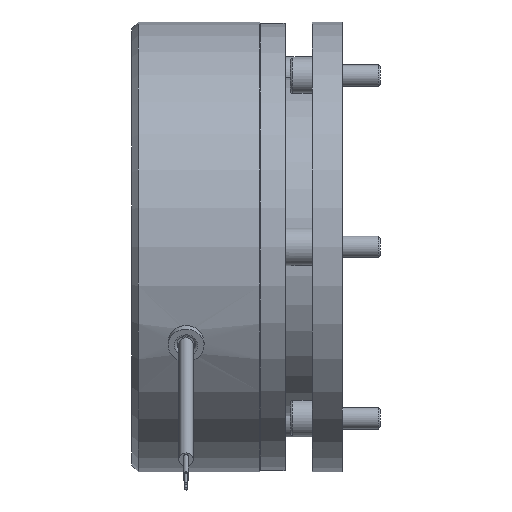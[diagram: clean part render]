
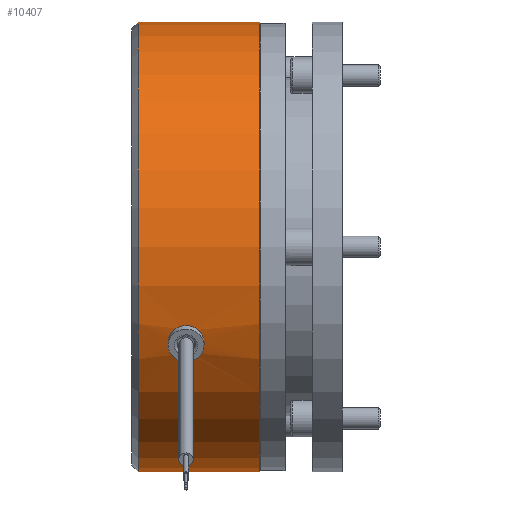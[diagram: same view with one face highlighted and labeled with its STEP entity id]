
A CAD part, front view. The second image highlights one B-rep face of the part: STEP entity #10407.
In plain terms, the highlighted cylindrical face has radius 82.5 mm (diameter 165 mm), a full revolution.
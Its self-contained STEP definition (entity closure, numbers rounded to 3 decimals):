
#458=B_SPLINE_CURVE_WITH_KNOTS('',3,(#19394,#19395,#19396,#19397,#19398,
#19399,#19400,#19401,#19402,#19403,#19404,#19405,#19406,#19407,#19408,#19409,
#19410,#19411),.UNSPECIFIED.,.F.,.F.,(4,2,2,2,2,2,2,2,4),(0.767,
0.959,1.151,1.343,1.535,1.726,
1.918,2.11,2.302),.UNSPECIFIED.);
#459=B_SPLINE_CURVE_WITH_KNOTS('',3,(#19414,#19415,#19416,#19417,#19418,
#19419,#19420,#19421,#19422,#19423,#19424,#19425,#19426,#19427,#19428,#19429,
#19430,#19431,#19432),.UNSPECIFIED.,.F.,.F.,(4,2,2,2,3,2,2,2,4),(2.302,
2.494,2.686,2.878,3.069,3.261,
3.453,3.645,3.837),.UNSPECIFIED.);
#784=CYLINDRICAL_SURFACE('',#11539,82.5);
#859=FACE_BOUND('',#2573,.T.);
#1436=CIRCLE('',#11540,82.5);
#1437=CIRCLE('',#11541,82.5);
#1438=CIRCLE('',#11542,82.5);
#1980=FACE_OUTER_BOUND('',#2572,.T.);
#2572=EDGE_LOOP('',(#9145,#9146,#9147,#9148,#9149));
#2573=EDGE_LOOP('',(#9150,#9151,#9152,#9153,#9154,#9155));
#3167=LINE('',#19511,#3660);
#3168=LINE('',#19513,#3661);
#3169=LINE('',#19514,#3662);
#3660=VECTOR('',#14257,82.5);
#3661=VECTOR('',#14260,10.);
#3662=VECTOR('',#14261,10.);
#4655=VERTEX_POINT('',#19392);
#4656=VERTEX_POINT('',#19393);
#4657=VERTEX_POINT('',#19435);
#4658=VERTEX_POINT('',#19437);
#4669=VERTEX_POINT('',#19506);
#4670=VERTEX_POINT('',#19507);
#4671=VERTEX_POINT('',#19510);
#6149=EDGE_CURVE('',#4655,#4656,#458,.T.);
#6151=EDGE_CURVE('',#4656,#4655,#459,.T.);
#6170=EDGE_CURVE('',#4669,#4670,#1436,.T.);
#6171=EDGE_CURVE('',#4670,#4669,#1437,.T.);
#6172=EDGE_CURVE('',#4670,#4671,#3167,.T.);
#6173=EDGE_CURVE('',#4671,#4671,#1438,.T.);
#6174=EDGE_CURVE('',#4656,#4658,#3168,.T.);
#6175=EDGE_CURVE('',#4657,#4655,#3169,.T.);
#9145=ORIENTED_EDGE('',*,*,#6170,.F.);
#9146=ORIENTED_EDGE('',*,*,#6171,.F.);
#9147=ORIENTED_EDGE('',*,*,#6172,.T.);
#9148=ORIENTED_EDGE('',*,*,#6173,.F.);
#9149=ORIENTED_EDGE('',*,*,#6172,.F.);
#9150=ORIENTED_EDGE('',*,*,#6174,.T.);
#9151=ORIENTED_EDGE('',*,*,#6174,.F.);
#9152=ORIENTED_EDGE('',*,*,#6151,.T.);
#9153=ORIENTED_EDGE('',*,*,#6175,.F.);
#9154=ORIENTED_EDGE('',*,*,#6175,.T.);
#9155=ORIENTED_EDGE('',*,*,#6149,.T.);
#10407=ADVANCED_FACE('',(#1980,#859),#784,.T.);
#11539=AXIS2_PLACEMENT_3D('',#19505,#14251,#14252);
#11540=AXIS2_PLACEMENT_3D('',#19508,#14253,#14254);
#11541=AXIS2_PLACEMENT_3D('',#19509,#14255,#14256);
#11542=AXIS2_PLACEMENT_3D('',#19512,#14258,#14259);
#14251=DIRECTION('center_axis',(-1.,0.,0.));
#14252=DIRECTION('ref_axis',(0.,0.,-1.));
#14253=DIRECTION('center_axis',(-1.,0.,0.));
#14254=DIRECTION('ref_axis',(0.,-1.,0.));
#14255=DIRECTION('center_axis',(-1.,0.,0.));
#14256=DIRECTION('ref_axis',(0.,-1.,0.));
#14257=DIRECTION('',(1.,0.,0.));
#14258=DIRECTION('center_axis',(1.,0.,0.));
#14259=DIRECTION('ref_axis',(0.,0.,-1.));
#14260=DIRECTION('',(-1.,0.,0.));
#14261=DIRECTION('',(-1.,0.,0.));
#19392=CARTESIAN_POINT('',(-21.9,-74.77,-34.866));
#19393=CARTESIAN_POINT('',(-32.1,-74.77,-34.866));
#19394=CARTESIAN_POINT('Ctrl Pts',(-21.9,-74.77,-34.866));
#19395=CARTESIAN_POINT('Ctrl Pts',(-21.9,-74.5,-35.446));
#19396=CARTESIAN_POINT('Ctrl Pts',(-22.029,-74.204,
-36.06));
#19397=CARTESIAN_POINT('Ctrl Pts',(-22.551,-73.648,
-37.184));
#19398=CARTESIAN_POINT('Ctrl Pts',(-22.944,-73.387,-37.693));
#19399=CARTESIAN_POINT('Ctrl Pts',(-23.851,-72.971,-38.493));
#19400=CARTESIAN_POINT('Ctrl Pts',(-24.424,-72.787,
-38.838));
#19401=CARTESIAN_POINT('Ctrl Pts',(-25.679,-72.541,
-39.294));
#19402=CARTESIAN_POINT('Ctrl Pts',(-26.361,-72.48,-39.406));
#19403=CARTESIAN_POINT('Ctrl Pts',(-27.639,-72.48,
-39.406));
#19404=CARTESIAN_POINT('Ctrl Pts',(-28.321,-72.541,
-39.294));
#19405=CARTESIAN_POINT('Ctrl Pts',(-29.576,-72.787,-38.838));
#19406=CARTESIAN_POINT('Ctrl Pts',(-30.149,-72.971,-38.493));
#19407=CARTESIAN_POINT('Ctrl Pts',(-31.056,-73.387,
-37.693));
#19408=CARTESIAN_POINT('Ctrl Pts',(-31.449,-73.648,
-37.184));
#19409=CARTESIAN_POINT('Ctrl Pts',(-31.971,-74.204,
-36.06));
#19410=CARTESIAN_POINT('Ctrl Pts',(-32.1,-74.5,
-35.446));
#19411=CARTESIAN_POINT('Ctrl Pts',(-32.1,-74.77,
-34.866));
#19414=CARTESIAN_POINT('Ctrl Pts',(-32.1,-74.77,
-34.866));
#19415=CARTESIAN_POINT('Ctrl Pts',(-32.1,-75.041,
-34.286));
#19416=CARTESIAN_POINT('Ctrl Pts',(-31.971,-75.322,
-33.665));
#19417=CARTESIAN_POINT('Ctrl Pts',(-31.449,-75.824,
-32.516));
#19418=CARTESIAN_POINT('Ctrl Pts',(-31.056,-76.047,
-31.989));
#19419=CARTESIAN_POINT('Ctrl Pts',(-30.149,-76.392,
-31.156));
#19420=CARTESIAN_POINT('Ctrl Pts',(-29.576,-76.538,-30.793));
#19421=CARTESIAN_POINT('Ctrl Pts',(-28.321,-76.73,
-30.312));
#19422=CARTESIAN_POINT('Ctrl Pts',(-27.639,-76.776,
-30.193));
#19423=CARTESIAN_POINT('Ctrl Pts',(-27.,-76.776,-30.193));
#19424=CARTESIAN_POINT('Ctrl Pts',(-26.361,-76.776,-30.193));
#19425=CARTESIAN_POINT('Ctrl Pts',(-25.679,-76.73,
-30.312));
#19426=CARTESIAN_POINT('Ctrl Pts',(-24.424,-76.538,
-30.793));
#19427=CARTESIAN_POINT('Ctrl Pts',(-23.851,-76.392,
-31.156));
#19428=CARTESIAN_POINT('Ctrl Pts',(-22.944,-76.047,-31.989));
#19429=CARTESIAN_POINT('Ctrl Pts',(-22.551,-75.824,
-32.516));
#19430=CARTESIAN_POINT('Ctrl Pts',(-22.029,-75.322,
-33.665));
#19431=CARTESIAN_POINT('Ctrl Pts',(-21.9,-75.041,-34.286));
#19432=CARTESIAN_POINT('Ctrl Pts',(-21.9,-74.77,-34.866));
#19435=CARTESIAN_POINT('',(-20.4,-74.77,-34.866));
#19437=CARTESIAN_POINT('',(-33.6,-74.77,-34.866));
#19505=CARTESIAN_POINT('Origin',(0.,0.,0.));
#19506=CARTESIAN_POINT('',(-44.5,82.5,0.));
#19507=CARTESIAN_POINT('',(-44.5,0.,82.5));
#19508=CARTESIAN_POINT('Origin',(-44.5,0.,0.));
#19509=CARTESIAN_POINT('Origin',(-44.5,0.,0.));
#19510=CARTESIAN_POINT('',(0.,0.,82.5));
#19511=CARTESIAN_POINT('',(0.,0.,82.5));
#19512=CARTESIAN_POINT('Origin',(0.,0.,0.));
#19513=CARTESIAN_POINT('',(0.,-74.77,-34.866));
#19514=CARTESIAN_POINT('',(0.,-74.77,-34.866));
